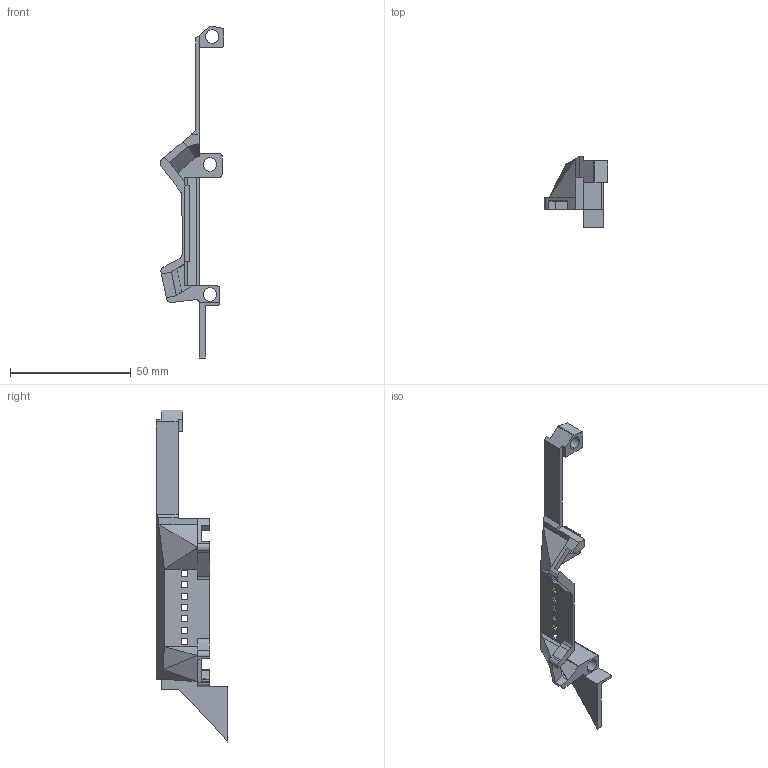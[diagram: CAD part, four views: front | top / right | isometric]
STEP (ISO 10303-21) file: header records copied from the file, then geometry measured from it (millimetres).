
FILE_DESCRIPTION (( 'STEP AP214' ), '1' );
FILE_NAME ('侧板2（包围式）加灯光.STEP', '2025-08-06T12:44:22', ( '' ), ( '' ), 'SwSTEP 2.0', 'SolidWorks 2024', '' );
FILE_SCHEMA (( 'AUTOMOTIVE_DESIGN' ));
Length unit declared in the file: millimetre
Products named in the file (1): 侧板2（包围式）加灯光
Bounding box: 26.27 x 29.5 x 137.3 mm (x, y, z)
Volume: 7893.1 mm3; surface area: 8159.5 mm2
Topology: 1 solids, 1 shells, 149 faces, 411 edges, 266 vertices
Faces by surface type: plane 124, cylinder 25
Entity records: 4725 total; most frequent: CARTESIAN_POINT 830, ORIENTED_EDGE 822, DIRECTION 759, EDGE_CURVE 411, LINE 361, VECTOR 361, VERTEX_POINT 266, AXIS2_PLACEMENT_3D 199
